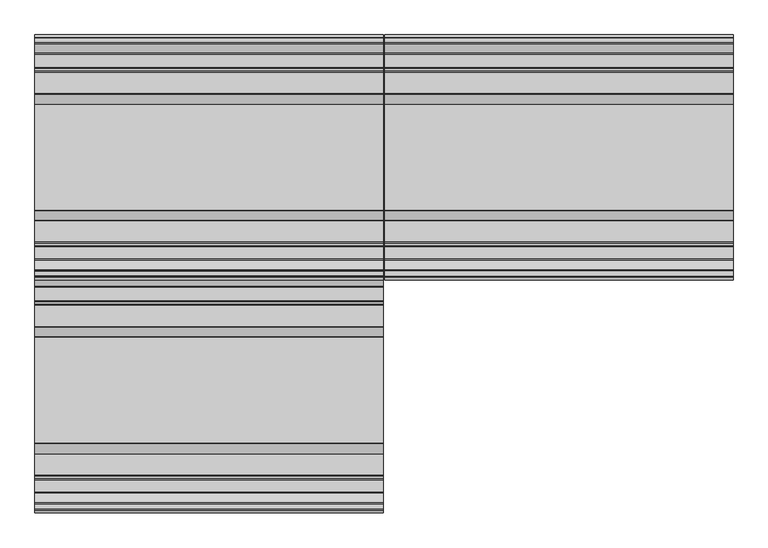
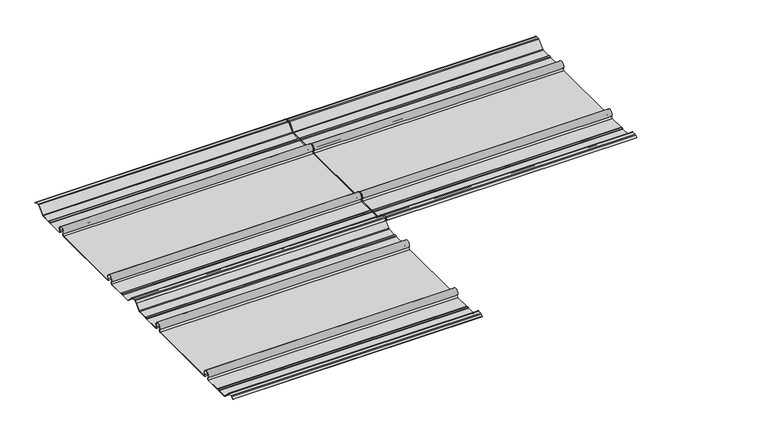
"""IFC4 building model written with IfcOpenShell, lengths in millimetres: proxy geometry, Xlath : Xlath."""

import ifcopenshell
import ifcopenshell.guid

model = None  # the IFC model being written
_history = None  # IfcOwnerHistory: only IFC2X3 demands one
_inside = {}  # id of a spatial element -> (the spatial element, [elements in it])
_under = {}  # id of a project, library or spatial element -> (it, [spatial elements below it])
_declared = {}  # id of a project -> (the project, [libraries it declares])
_typed = {}  # id of a type object -> (the type object, [elements of that type])
_made_of = {}  # id of a material, layer set ... -> (it, [elements and type objects made of it])


def new_model(schema):
    """Start an empty IFC model of exactly this schema.

    Asked for "IFC4X3", IfcOpenShell would pick the latest addendum, in which some entities
    have other attributes; the version numbers below select the first issue.
    IFC2X3 requires an IfcOwnerHistory on every rooted entity: one is made here for all.
    """
    global model, _history
    if schema == "IFC4X3":
        model = ifcopenshell.file(schema_version=(4, 3, 0, 0))
    else:
        model = ifcopenshell.file(schema=schema)
    _inside.clear()
    _under.clear()
    _declared.clear()
    _typed.clear()
    _made_of.clear()
    _history = None
    if model.schema == "IFC2X3":
        org = make("IfcOrganization", Name="unknown")
        user = make(
            "IfcPersonAndOrganization",
            ThePerson=make("IfcPerson", FamilyName="unknown"),
            TheOrganization=org,
        )
        app = make(
            "IfcApplication",
            ApplicationDeveloper=org,
            Version="unknown",
            ApplicationFullName="unknown",
            ApplicationIdentifier="unknown",
        )
        _history = make(
            "IfcOwnerHistory",
            OwningUser=user,
            OwningApplication=app,
            ChangeAction="ADDED",
            CreationDate=0,
        )
    return model


def make(cls, **values):
    """One entity of the class cls with the attributes given. An attribute that is None is left unset."""
    return model.create_entity(
        cls, **{name: value for name, value in values.items() if value is not None}
    )


def rooted(cls, **values):
    """An entity with a GlobalId (a new one), such as an element, a storey or a relation."""
    return make(cls, GlobalId=ifcopenshell.guid.new(), OwnerHistory=_history, **values)


def si_unit(unit_type, name, prefix=None):
    """IfcSIUnit, for example si_unit("LENGTHUNIT", "METRE", prefix="MILLI")."""
    return make("IfcSIUnit", UnitType=unit_type, Prefix=prefix, Name=name)


def assignment(units):
    """IfcUnitAssignment: the units of a project."""
    return None if units is None else make("IfcUnitAssignment", Units=units)


def point(xyz):
    """IfcCartesianPoint."""
    return None if xyz is None else make("IfcCartesianPoint", Coordinates=xyz)


def direction(xyz):
    """IfcDirection."""
    return None if xyz is None else make("IfcDirection", DirectionRatios=xyz)


def frame(location, z_axis=None, x_axis=None):
    """IfcAxis2Placement3D, a coordinate frame: its origin and axes. An axis left out is left unset."""
    return make(
        "IfcAxis2Placement3D",
        Location=point(location),
        Axis=direction(z_axis),
        RefDirection=direction(x_axis),
    )


def frame_2d(location, x_axis=None):
    """IfcAxis2Placement2D, a coordinate frame in the plane: its origin and x axis."""
    return make(
        "IfcAxis2Placement2D", Location=point(location), RefDirection=direction(x_axis)
    )


def origin():
    """The frame at (0, 0, 0) with its axes left unset."""
    return frame((0.0, 0.0, 0.0))


def place(relative_to, where):
    """IfcLocalPlacement: puts the frame where relative to a parent placement (None: the world)."""
    return make(
        "IfcLocalPlacement", PlacementRelTo=relative_to, RelativePlacement=where
    )


def context(
    kind, dimensions, precision=None, world=None, true_north=None, identifier=None
):
    """IfcGeometricRepresentationContext, for example the 3D "Model" context."""
    return make(
        "IfcGeometricRepresentationContext",
        ContextIdentifier=identifier,
        ContextType=kind,
        CoordinateSpaceDimension=dimensions,
        Precision=precision,
        WorldCoordinateSystem=world,
        TrueNorth=true_north,
    )


def project(units=None, contexts=None):
    """IfcProject with its units and contexts."""
    return rooted(
        "IfcProject",
        Name="project",
        RepresentationContexts=contexts,
        UnitsInContext=assignment(units),
    )


def spatial(cls, under=None, at=None, **own):
    """A site, building, storey or space (cls), placed at a placement, below another one or the project."""
    s = rooted(cls, ObjectPlacement=at, **own)
    if under is not None:
        _under.setdefault(under.id(), (under, []))[1].append(s)
    return s


def polyline(points):
    """IfcPolyline through the points."""
    return make("IfcPolyline", Points=[point(p) for p in points])


def circle_curve(where, radius):
    """IfcCircle in the frame where."""
    return make("IfcCircle", Position=where, Radius=radius)


def trimmed(basis, trim1, trim2, sense, master):
    """IfcTrimmedCurve: the piece of a basis curve between two trims."""
    return make(
        "IfcTrimmedCurve",
        BasisCurve=basis,
        Trim1=trim1,
        Trim2=trim2,
        SenseAgreement=sense,
        MasterRepresentation=master,
    )


def segment(curve, same_sense, transition):
    """IfcCompositeCurveSegment."""
    return make(
        "IfcCompositeCurveSegment",
        Transition=transition,
        SameSense=same_sense,
        ParentCurve=curve,
    )


def composite_curve(segments, self_intersect=None):
    """IfcCompositeCurve: segments joined end to end."""
    return make("IfcCompositeCurve", Segments=segments, SelfIntersect=self_intersect)


def outline(outer, holes=None, kind="AREA"):
    """IfcArbitraryClosedProfileDef: a profile drawn as a closed curve; with holes, ...WithVoids."""
    if holes is None:
        return make("IfcArbitraryClosedProfileDef", ProfileType=kind, OuterCurve=outer)
    return make(
        "IfcArbitraryProfileDefWithVoids",
        ProfileType=kind,
        OuterCurve=outer,
        InnerCurves=holes,
    )


def extrude(swept, where, along, depth):
    """IfcExtrudedAreaSolid: the profile swept, set in the frame where, extruded along a direction by depth."""
    return make(
        "IfcExtrudedAreaSolid",
        SweptArea=swept,
        Position=where,
        ExtrudedDirection=direction(along),
        Depth=depth,
    )


def shape(context_of_items, identifier, shape_type, items):
    """IfcShapeRepresentation: the items that make up one representation, for example the "Body"."""
    return make(
        "IfcShapeRepresentation",
        ContextOfItems=context_of_items,
        RepresentationIdentifier=identifier,
        RepresentationType=shape_type,
        Items=items,
    )


def source(mapping_origin, context_of_items, identifier, shape_type, items):
    """IfcRepresentationMap: a shape defined once, which mapped items show again and again."""
    return make(
        "IfcRepresentationMap",
        MappingOrigin=mapping_origin,
        MappedRepresentation=shape(context_of_items, identifier, shape_type, items),
    )


def transform(
    local_origin,
    x_axis=None,
    y_axis=None,
    z_axis=None,
    scale=None,
    scale2=None,
    scale3=None,
    uniform=True,
):
    """IfcCartesianTransformationOperator3D, or its non-uniform kind. x_axis, y_axis, z_axis: its Axis1, 2, 3."""
    if uniform:
        return make(
            "IfcCartesianTransformationOperator3D",
            Axis1=direction(x_axis),
            Axis2=direction(y_axis),
            LocalOrigin=point(local_origin),
            Scale=scale,
            Axis3=direction(z_axis),
        )
    return make(
        "IfcCartesianTransformationOperator3DnonUniform",
        Axis1=direction(x_axis),
        Axis2=direction(y_axis),
        LocalOrigin=point(local_origin),
        Scale=scale,
        Axis3=direction(z_axis),
        Scale2=scale2,
        Scale3=scale3,
    )


def mapped(mapping_source, mapping_target):
    """IfcMappedItem: shows the shape of a source again, moved by a transform."""
    return make(
        "IfcMappedItem", MappingSource=mapping_source, MappingTarget=mapping_target
    )


def made_of(thing, what):
    """Note that an element or type object is made of a material, layer set ...; save() writes the relation."""
    if what is not None:
        _made_of.setdefault(what.id(), (what, []))[1].append(thing)
    return thing


def element(
    cls,
    number,
    at=None,
    inside=None,
    cuts=None,
    type_object=None,
    material=None,
    context=None,
    identifier="Body",
    shape_type=None,
    held_by="IfcProductDefinitionShape",
    body=None,
    shapes=None,
    **own,
):
    """One element of the class cls, such as IfcWall. Its Tag is "e" and its number.

    at: its placement. inside: the storey or other place that contains it. cuts: it is an
    opening in that element (IfcRelVoidsElement). A single representation is given by context,
    identifier, shape_type and body (its items); several are given by shapes. held_by: the class
    of the entity that holds the representations. save() writes the other relations.
    """
    e = rooted(cls, Tag="e%d" % number, ObjectPlacement=at, **own)
    if body is not None:
        shapes = [shape(context, identifier, shape_type, body)]
    if shapes is not None:
        e.Representation = make(held_by, Representations=shapes)
    if inside is not None:
        _inside.setdefault(inside.id(), (inside, []))[1].append(e)
    if cuts is not None:
        rooted(
            "IfcRelVoidsElement", RelatingBuildingElement=cuts, RelatedOpeningElement=e
        )
    if type_object is not None:
        _typed.setdefault(type_object.id(), (type_object, []))[1].append(e)
    return made_of(e, material)


def aggregate(whole, parts):
    """IfcRelAggregates: a whole, such as a stair, and the parts it consists of."""
    return rooted("IfcRelAggregates", RelatingObject=whole, RelatedObjects=parts)


def save(model, path):
    """Write the relations noted so far, then the file.

    IfcRelAggregates (storeys below a building ...), IfcRelContainedInSpatialStructure (elements
    in a storey), IfcRelDefinesByType, IfcRelAssociatesMaterial and IfcRelDeclares: one each for
    every whole, place, type object, material and project.
    """
    for whole, parts in _under.values():
        aggregate(whole, parts)
    for where, things in _inside.values():
        rooted(
            "IfcRelContainedInSpatialStructure",
            RelatedElements=things,
            RelatingStructure=where,
        )
    for kind, things in _typed.values():
        rooted("IfcRelDefinesByType", RelatedObjects=things, RelatingType=kind)
    for what, things in _made_of.values():
        rooted("IfcRelAssociatesMaterial", RelatedObjects=things, RelatingMaterial=what)
    for by, libraries in _declared.values():
        rooted("IfcRelDeclares", RelatingContext=by, RelatedDefinitions=libraries)
    model.write(path)


def generic_models_2addc40d(model_context):
    return source(origin(), model_context, "Body", "SweptSolid", [
        extrude(outline(composite_curve([segment(polyline([(-410.421536, 17.692427), (-406.4, 13.8209287), (-406.9628134, 13.2581153), (-411.2173305, 17.3539026)]), True, "CONTINUOUS"), segment(trimmed(circle_curve(frame_2d((-413.0934261, 15.4051)), 2.7051), [point((-411.2173305, 17.3539026))], [point((-413.0934261, 18.1102))], True, "CARTESIAN"), True, "CONTINUOUS"), segment(polyline([(-413.0934261, 18.1102), (-420.2817457, 18.1102)]), True, "CONTINUOUS"), segment(trimmed(circle_curve(frame_2d((-420.2817457, 15.4051)), 2.7051), [point((-420.2817457, 18.1102))], [point((-422.2059623, 17.3064039))], True, "CARTESIAN"), True, "CONTINUOUS"), segment(polyline([(-422.2059623, 17.3064039), (-438.3741011, 0.9434226)]), True, "CONTINUOUS"), segment(trimmed(circle_curve(frame_2d((-440.6325712, 3.175)), 3.175), [point((-438.3741011, 0.9434226))], [point((-440.6325712, 0.0))], False, "CARTESIAN"), True, "CONTINUOUS"), segment(polyline([(-440.6325712, 0.0), (-463.7486405, 0.0)]), True, "CONTINUOUS"), segment(trimmed(circle_curve(frame_2d((-463.7486405, 3.175)), 3.175), [point((-463.7486405, 0.0))], [point((-465.7419174, 0.70367))], False, "CARTESIAN"), True, "CONTINUOUS"), segment(trimmed(circle_curve(frame_2d((-467.7351943, -1.7676601)), 3.175), [point((-465.7419174, 0.70367))], [point((-469.7284712, 0.70367))], True, "CARTESIAN"), True, "CONTINUOUS"), segment(trimmed(circle_curve(frame_2d((-471.7217481, 3.175)), 3.175), [point((-469.7284712, 0.70367))], [point((-471.7217481, 0.0))], False, "CARTESIAN"), True, "CONTINUOUS"), segment(polyline([(-471.7217481, 0.0), (-508.99972, 0.0)]), True, "CONTINUOUS"), segment(trimmed(circle_curve(frame_2d((-508.99972, 3.3362305)), 3.3362305), [point((-508.99972, 0.0))], [point((-511.6911698, 5.3076593))], False, "CARTESIAN"), True, "CONTINUOUS"), segment(trimmed(circle_curve(frame_2d((-518.2031627, 10.0775533)), 8.0720469), [point((-511.6911698, 5.3076593))], [point((-524.7151555, 5.3076593))], True, "CARTESIAN"), True, "CONTINUOUS"), segment(trimmed(circle_curve(frame_2d((-527.4066054, 3.3362305)), 3.3362305), [point((-524.7151555, 5.3076593))], [point((-527.4066054, 0.0))], False, "CARTESIAN"), True, "CONTINUOUS"), segment(polyline([(-527.4066054, 0.0), (-712.4308946, 0.0)]), True, "CONTINUOUS"), segment(trimmed(circle_curve(frame_2d((-712.4308946, 3.3362305)), 3.3362305), [point((-712.4308946, 0.0))], [point((-715.1223445, 5.3076593))], False, "CARTESIAN"), True, "CONTINUOUS"), segment(trimmed(circle_curve(frame_2d((-721.6343373, 10.0775533)), 8.0720469), [point((-715.1223445, 5.3076593))], [point((-728.1463302, 5.3076593))], True, "CARTESIAN"), True, "CONTINUOUS"), segment(trimmed(circle_curve(frame_2d((-730.83778, 3.3362305)), 3.3362305), [point((-728.1463302, 5.3076593))], [point((-730.83778, 0.0))], False, "CARTESIAN"), True, "CONTINUOUS"), segment(polyline([(-730.83778, 0.0), (-768.1157519, 0.0)]), True, "CONTINUOUS"), segment(trimmed(circle_curve(frame_2d((-768.1157519, 3.175)), 3.175), [point((-768.1157519, 0.0))], [point((-770.1090288, 0.70367))], False, "CARTESIAN"), True, "CONTINUOUS"), segment(trimmed(circle_curve(frame_2d((-772.1023057, -1.7676601)), 3.175), [point((-770.1090288, 0.70367))], [point((-774.0955826, 0.70367))], True, "CARTESIAN"), True, "CONTINUOUS"), segment(trimmed(circle_curve(frame_2d((-776.0888595, 3.175)), 3.175), [point((-774.0955826, 0.70367))], [point((-776.0888595, 0.0))], False, "CARTESIAN"), True, "CONTINUOUS"), segment(polyline([(-776.0888595, 0.0), (-797.4183557, 0.0)]), True, "CONTINUOUS"), segment(trimmed(circle_curve(frame_2d((-797.4183557, 3.175)), 3.175), [point((-797.4183557, 0.0))], [point((-799.6768259, 0.9434226))], False, "CARTESIAN"), True, "CONTINUOUS"), segment(polyline([(-799.6768259, 0.9434226), (-816.3092693, 17.7763039)]), True, "CONTINUOUS"), segment(trimmed(circle_curve(frame_2d((-818.2334859, 15.875)), 2.7051), [point((-816.3092693, 17.7763039))], [point((-818.2334859, 18.5801))], True, "CARTESIAN"), True, "CONTINUOUS"), segment(polyline([(-818.2334859, 18.5801), (-826.7440739, 18.5801)]), True, "CONTINUOUS"), segment(trimmed(circle_curve(frame_2d((-826.7440739, 15.875)), 2.7051), [point((-826.7440739, 18.5801))], [point((-828.6201695, 17.8238026))], True, "CARTESIAN"), True, "CONTINUOUS"), segment(polyline([(-828.6201695, 17.8238026), (-832.8855845, 13.717524), (-833.4483979, 14.2803374), (-829.415964, 18.162327)]), True, "CONTINUOUS"), segment(trimmed(circle_curve(frame_2d((-827.2139739, 15.875)), 3.175), [point((-829.415964, 18.162327))], [point((-827.2139739, 19.05))], False, "CARTESIAN"), True, "CONTINUOUS"), segment(polyline([(-827.2139739, 19.05), (-818.2334859, 19.05)]), True, "CONTINUOUS"), segment(trimmed(circle_curve(frame_2d((-818.2334859, 15.875)), 3.175), [point((-818.2334859, 19.05))], [point((-815.9750157, 18.1065774))], False, "CARTESIAN"), True, "CONTINUOUS"), segment(polyline([(-815.9750157, 18.1065774), (-799.3425723, 1.2736961)]), True, "CONTINUOUS"), segment(trimmed(circle_curve(frame_2d((-797.4183557, 3.175)), 2.7051), [point((-799.3425723, 1.2736961))], [point((-797.4183557, 0.4699))], True, "CARTESIAN"), True, "CONTINUOUS"), segment(polyline([(-797.4183557, 0.4699), (-776.2514296, 0.4699)]), True, "CONTINUOUS"), segment(trimmed(circle_curve(frame_2d((-776.2514296, 3.6449)), 3.175), [point((-776.2514296, 0.4699))], [point((-774.3198077, 1.1250862))], True, "CARTESIAN"), True, "CONTINUOUS"), segment(trimmed(circle_curve(frame_2d((-772.1023057, -1.7676601)), 3.6449), [point((-774.3198077, 1.1250862))], [point((-769.8848037, 1.1250862))], False, "CARTESIAN"), True, "CONTINUOUS"), segment(trimmed(circle_curve(frame_2d((-767.9531818, 3.6449)), 3.175), [point((-769.8848037, 1.1250862))], [point((-767.9531818, 0.4699))], True, "CARTESIAN"), True, "CONTINUOUS"), segment(polyline([(-767.9531818, 0.4699), (-730.83778, 0.4699)]), True, "CONTINUOUS"), segment(trimmed(circle_curve(frame_2d((-730.83778, 3.3362305)), 2.8663305), [point((-730.83778, 0.4699))], [point((-728.5254144, 5.0299883))], True, "CARTESIAN"), True, "CONTINUOUS"), segment(trimmed(circle_curve(frame_2d((-721.6343373, 10.0775533)), 8.5419469), [point((-728.5254144, 5.0299883))], [point((-714.7432603, 5.0299883))], False, "CARTESIAN"), True, "CONTINUOUS"), segment(trimmed(circle_curve(frame_2d((-712.4308946, 3.3362305)), 2.8663305), [point((-714.7432603, 5.0299883))], [point((-712.4308946, 0.4699))], True, "CARTESIAN"), True, "CONTINUOUS"), segment(polyline([(-712.4308946, 0.4699), (-527.4066054, 0.4699)]), True, "CONTINUOUS"), segment(trimmed(circle_curve(frame_2d((-527.4066054, 3.3362305)), 2.8663305), [point((-527.4066054, 0.4699))], [point((-525.0942397, 5.0299883))], True, "CARTESIAN"), True, "CONTINUOUS"), segment(trimmed(circle_curve(frame_2d((-518.2031627, 10.0775533)), 8.5419469), [point((-525.0942397, 5.0299883))], [point((-511.3120856, 5.0299883))], False, "CARTESIAN"), True, "CONTINUOUS"), segment(trimmed(circle_curve(frame_2d((-508.99972, 3.3362305)), 2.8663305), [point((-511.3120856, 5.0299883))], [point((-508.99972, 0.4699))], True, "CARTESIAN"), True, "CONTINUOUS"), segment(polyline([(-508.99972, 0.4699), (-471.8843182, 0.4699)]), True, "CONTINUOUS"), segment(trimmed(circle_curve(frame_2d((-471.8843182, 3.6449)), 3.175), [point((-471.8843182, 0.4699))], [point((-469.9526963, 1.1250862))], True, "CARTESIAN"), True, "CONTINUOUS"), segment(trimmed(circle_curve(frame_2d((-467.7351943, -1.7676601)), 3.6449), [point((-469.9526963, 1.1250862))], [point((-465.5176923, 1.1250862))], False, "CARTESIAN"), True, "CONTINUOUS"), segment(trimmed(circle_curve(frame_2d((-463.5860704, 3.6449)), 3.175), [point((-465.5176923, 1.1250862))], [point((-463.5860704, 0.4699))], True, "CARTESIAN"), True, "CONTINUOUS"), segment(polyline([(-463.5860704, 0.4699), (-440.6325712, 0.4699)]), True, "CONTINUOUS"), segment(trimmed(circle_curve(frame_2d((-440.6325712, 3.175)), 2.7051), [point((-440.6325712, 0.4699))], [point((-438.7083547, 1.2736961))], True, "CARTESIAN"), True, "CONTINUOUS"), segment(polyline([(-438.7083547, 1.2736961), (-422.5402159, 17.6366774)]), True, "CONTINUOUS"), segment(trimmed(circle_curve(frame_2d((-420.2817457, 15.4051)), 3.175), [point((-422.5402159, 17.6366774))], [point((-420.2817457, 18.5801))], False, "CARTESIAN"), True, "CONTINUOUS"), segment(polyline([(-420.2817457, 18.5801), (-412.6235261, 18.5801)]), True, "CONTINUOUS"), segment(trimmed(circle_curve(frame_2d((-412.6235261, 15.4051)), 3.175), [point((-412.6235261, 18.5801))], [point((-410.421536, 17.692427))], False, "CARTESIAN"), True, "CONTINUOUS")], self_intersect=False)), frame((0.0, 0.0, 0.0), z_axis=(1.0, 0.0, 0.0), x_axis=(0.0, 1.0, 0.0)), (0.0, 0.0, 1.0), 606.425),
        extrude(outline(composite_curve([segment(polyline([(-4.021536, 17.692427), (0.0, 13.8209287), (-0.5628134, 13.2581153), (-4.8173305, 17.3539026)]), True, "CONTINUOUS"), segment(trimmed(circle_curve(frame_2d((-6.6934261, 15.4051)), 2.7051), [point((-4.8173305, 17.3539026))], [point((-6.6934261, 18.1102))], True, "CARTESIAN"), True, "CONTINUOUS"), segment(polyline([(-6.6934261, 18.1102), (-13.8817457, 18.1102)]), True, "CONTINUOUS"), segment(trimmed(circle_curve(frame_2d((-13.8817457, 15.4051)), 2.7051), [point((-13.8817457, 18.1102))], [point((-15.8059623, 17.3064039))], True, "CARTESIAN"), True, "CONTINUOUS"), segment(polyline([(-15.8059623, 17.3064039), (-31.9741011, 0.9434226)]), True, "CONTINUOUS"), segment(trimmed(circle_curve(frame_2d((-34.2325712, 3.175)), 3.175), [point((-31.9741011, 0.9434226))], [point((-34.2325712, 0.0))], False, "CARTESIAN"), True, "CONTINUOUS"), segment(polyline([(-34.2325712, 0.0), (-57.3486405, 0.0)]), True, "CONTINUOUS"), segment(trimmed(circle_curve(frame_2d((-57.3486405, 3.175)), 3.175), [point((-57.3486405, 0.0))], [point((-59.3419174, 0.70367))], False, "CARTESIAN"), True, "CONTINUOUS"), segment(trimmed(circle_curve(frame_2d((-61.3351943, -1.7676601)), 3.175), [point((-59.3419174, 0.70367))], [point((-63.3284712, 0.70367))], True, "CARTESIAN"), True, "CONTINUOUS"), segment(trimmed(circle_curve(frame_2d((-65.3217481, 3.175)), 3.175), [point((-63.3284712, 0.70367))], [point((-65.3217481, 0.0))], False, "CARTESIAN"), True, "CONTINUOUS"), segment(polyline([(-65.3217481, 0.0), (-102.59972, 0.0)]), True, "CONTINUOUS"), segment(trimmed(circle_curve(frame_2d((-102.59972, 3.3362305)), 3.3362305), [point((-102.59972, 0.0))], [point((-105.2911698, 5.3076593))], False, "CARTESIAN"), True, "CONTINUOUS"), segment(trimmed(circle_curve(frame_2d((-111.8031627, 10.0775533)), 8.0720469), [point((-105.2911698, 5.3076593))], [point((-118.3151555, 5.3076593))], True, "CARTESIAN"), True, "CONTINUOUS"), segment(trimmed(circle_curve(frame_2d((-121.0066054, 3.3362305)), 3.3362305), [point((-118.3151555, 5.3076593))], [point((-121.0066054, 0.0))], False, "CARTESIAN"), True, "CONTINUOUS"), segment(polyline([(-121.0066054, 0.0), (-306.0308946, 0.0)]), True, "CONTINUOUS"), segment(trimmed(circle_curve(frame_2d((-306.0308946, 3.3362305)), 3.3362305), [point((-306.0308946, 0.0))], [point((-308.7223445, 5.3076593))], False, "CARTESIAN"), True, "CONTINUOUS"), segment(trimmed(circle_curve(frame_2d((-315.2343373, 10.0775533)), 8.0720469), [point((-308.7223445, 5.3076593))], [point((-321.7463302, 5.3076593))], True, "CARTESIAN"), True, "CONTINUOUS"), segment(trimmed(circle_curve(frame_2d((-324.43778, 3.3362305)), 3.3362305), [point((-321.7463302, 5.3076593))], [point((-324.43778, 0.0))], False, "CARTESIAN"), True, "CONTINUOUS"), segment(polyline([(-324.43778, 0.0), (-361.7157519, 0.0)]), True, "CONTINUOUS"), segment(trimmed(circle_curve(frame_2d((-361.7157519, 3.175)), 3.175), [point((-361.7157519, 0.0))], [point((-363.7090288, 0.70367))], False, "CARTESIAN"), True, "CONTINUOUS"), segment(trimmed(circle_curve(frame_2d((-365.7023057, -1.7676601)), 3.175), [point((-363.7090288, 0.70367))], [point((-367.6955826, 0.70367))], True, "CARTESIAN"), True, "CONTINUOUS"), segment(trimmed(circle_curve(frame_2d((-369.6888595, 3.175)), 3.175), [point((-367.6955826, 0.70367))], [point((-369.6888595, 0.0))], False, "CARTESIAN"), True, "CONTINUOUS"), segment(polyline([(-369.6888595, 0.0), (-391.0183557, 0.0)]), True, "CONTINUOUS"), segment(trimmed(circle_curve(frame_2d((-391.0183557, 3.175)), 3.175), [point((-391.0183557, 0.0))], [point((-393.2768259, 0.9434226))], False, "CARTESIAN"), True, "CONTINUOUS"), segment(polyline([(-393.2768259, 0.9434226), (-409.9092693, 17.7763039)]), True, "CONTINUOUS"), segment(trimmed(circle_curve(frame_2d((-411.8334859, 15.875)), 2.7051), [point((-409.9092693, 17.7763039))], [point((-411.8334859, 18.5801))], True, "CARTESIAN"), True, "CONTINUOUS"), segment(polyline([(-411.8334859, 18.5801), (-420.3440739, 18.5801)]), True, "CONTINUOUS"), segment(trimmed(circle_curve(frame_2d((-420.3440739, 15.875)), 2.7051), [point((-420.3440739, 18.5801))], [point((-422.2201695, 17.8238026))], True, "CARTESIAN"), True, "CONTINUOUS"), segment(polyline([(-422.2201695, 17.8238026), (-426.4855845, 13.717524), (-427.0483979, 14.2803374), (-423.015964, 18.162327)]), True, "CONTINUOUS"), segment(trimmed(circle_curve(frame_2d((-420.8139739, 15.875)), 3.175), [point((-423.015964, 18.162327))], [point((-420.8139739, 19.05))], False, "CARTESIAN"), True, "CONTINUOUS"), segment(polyline([(-420.8139739, 19.05), (-411.8334859, 19.05)]), True, "CONTINUOUS"), segment(trimmed(circle_curve(frame_2d((-411.8334859, 15.875)), 3.175), [point((-411.8334859, 19.05))], [point((-409.5750157, 18.1065774))], False, "CARTESIAN"), True, "CONTINUOUS"), segment(polyline([(-409.5750157, 18.1065774), (-392.9425723, 1.2736961)]), True, "CONTINUOUS"), segment(trimmed(circle_curve(frame_2d((-391.0183557, 3.175)), 2.7051), [point((-392.9425723, 1.2736961))], [point((-391.0183557, 0.4699))], True, "CARTESIAN"), True, "CONTINUOUS"), segment(polyline([(-391.0183557, 0.4699), (-369.8514296, 0.4699)]), True, "CONTINUOUS"), segment(trimmed(circle_curve(frame_2d((-369.8514296, 3.6449)), 3.175), [point((-369.8514296, 0.4699))], [point((-367.9198077, 1.1250862))], True, "CARTESIAN"), True, "CONTINUOUS"), segment(trimmed(circle_curve(frame_2d((-365.7023057, -1.7676601)), 3.6449), [point((-367.9198077, 1.1250862))], [point((-363.4848037, 1.1250862))], False, "CARTESIAN"), True, "CONTINUOUS"), segment(trimmed(circle_curve(frame_2d((-361.5531818, 3.6449)), 3.175), [point((-363.4848037, 1.1250862))], [point((-361.5531818, 0.4699))], True, "CARTESIAN"), True, "CONTINUOUS"), segment(polyline([(-361.5531818, 0.4699), (-324.43778, 0.4699)]), True, "CONTINUOUS"), segment(trimmed(circle_curve(frame_2d((-324.43778, 3.3362305)), 2.8663305), [point((-324.43778, 0.4699))], [point((-322.1254144, 5.0299883))], True, "CARTESIAN"), True, "CONTINUOUS"), segment(trimmed(circle_curve(frame_2d((-315.2343373, 10.0775533)), 8.5419469), [point((-322.1254144, 5.0299883))], [point((-308.3432603, 5.0299883))], False, "CARTESIAN"), True, "CONTINUOUS"), segment(trimmed(circle_curve(frame_2d((-306.0308946, 3.3362305)), 2.8663305), [point((-308.3432603, 5.0299883))], [point((-306.0308946, 0.4699))], True, "CARTESIAN"), True, "CONTINUOUS"), segment(polyline([(-306.0308946, 0.4699), (-121.0066054, 0.4699)]), True, "CONTINUOUS"), segment(trimmed(circle_curve(frame_2d((-121.0066054, 3.3362305)), 2.8663305), [point((-121.0066054, 0.4699))], [point((-118.6942397, 5.0299883))], True, "CARTESIAN"), True, "CONTINUOUS"), segment(trimmed(circle_curve(frame_2d((-111.8031627, 10.0775533)), 8.5419469), [point((-118.6942397, 5.0299883))], [point((-104.9120856, 5.0299883))], False, "CARTESIAN"), True, "CONTINUOUS"), segment(trimmed(circle_curve(frame_2d((-102.59972, 3.3362305)), 2.8663305), [point((-104.9120856, 5.0299883))], [point((-102.59972, 0.4699))], True, "CARTESIAN"), True, "CONTINUOUS"), segment(polyline([(-102.59972, 0.4699), (-65.4843182, 0.4699)]), True, "CONTINUOUS"), segment(trimmed(circle_curve(frame_2d((-65.4843182, 3.6449)), 3.175), [point((-65.4843182, 0.4699))], [point((-63.5526963, 1.1250862))], True, "CARTESIAN"), True, "CONTINUOUS"), segment(trimmed(circle_curve(frame_2d((-61.3351943, -1.7676601)), 3.6449), [point((-63.5526963, 1.1250862))], [point((-59.1176923, 1.1250862))], False, "CARTESIAN"), True, "CONTINUOUS"), segment(trimmed(circle_curve(frame_2d((-57.1860704, 3.6449)), 3.175), [point((-59.1176923, 1.1250862))], [point((-57.1860704, 0.4699))], True, "CARTESIAN"), True, "CONTINUOUS"), segment(polyline([(-57.1860704, 0.4699), (-34.2325712, 0.4699)]), True, "CONTINUOUS"), segment(trimmed(circle_curve(frame_2d((-34.2325712, 3.175)), 2.7051), [point((-34.2325712, 0.4699))], [point((-32.3083547, 1.2736961))], True, "CARTESIAN"), True, "CONTINUOUS"), segment(polyline([(-32.3083547, 1.2736961), (-16.1402159, 17.6366774)]), True, "CONTINUOUS"), segment(trimmed(circle_curve(frame_2d((-13.8817457, 15.4051)), 3.175), [point((-16.1402159, 17.6366774))], [point((-13.8817457, 18.5801))], False, "CARTESIAN"), True, "CONTINUOUS"), segment(polyline([(-13.8817457, 18.5801), (-6.2235261, 18.5801)]), True, "CONTINUOUS"), segment(trimmed(circle_curve(frame_2d((-6.2235261, 15.4051)), 3.175), [point((-6.2235261, 18.5801))], [point((-4.021536, 17.692427))], False, "CARTESIAN"), True, "CONTINUOUS")], self_intersect=False)), frame((609.6, 0.0, 0.0), z_axis=(1.0, 0.0, 0.0), x_axis=(0.0, 1.0, 0.0)), (0.0, 0.0, 1.0), 606.425),
        extrude(outline(composite_curve([segment(polyline([(-4.021536, 17.692427), (0.0, 13.8209287), (-0.5628134, 13.2581153), (-4.8173305, 17.3539026)]), True, "CONTINUOUS"), segment(trimmed(circle_curve(frame_2d((-6.6934261, 15.4051)), 2.7051), [point((-4.8173305, 17.3539026))], [point((-6.6934261, 18.1102))], True, "CARTESIAN"), True, "CONTINUOUS"), segment(polyline([(-6.6934261, 18.1102), (-13.8817457, 18.1102)]), True, "CONTINUOUS"), segment(trimmed(circle_curve(frame_2d((-13.8817457, 15.4051)), 2.7051), [point((-13.8817457, 18.1102))], [point((-15.8059623, 17.3064039))], True, "CARTESIAN"), True, "CONTINUOUS"), segment(polyline([(-15.8059623, 17.3064039), (-31.9741011, 0.9434226)]), True, "CONTINUOUS"), segment(trimmed(circle_curve(frame_2d((-34.2325712, 3.175)), 3.175), [point((-31.9741011, 0.9434226))], [point((-34.2325712, 0.0))], False, "CARTESIAN"), True, "CONTINUOUS"), segment(polyline([(-34.2325712, 0.0), (-57.3486405, 0.0)]), True, "CONTINUOUS"), segment(trimmed(circle_curve(frame_2d((-57.3486405, 3.175)), 3.175), [point((-57.3486405, 0.0))], [point((-59.3419174, 0.70367))], False, "CARTESIAN"), True, "CONTINUOUS"), segment(trimmed(circle_curve(frame_2d((-61.3351943, -1.7676601)), 3.175), [point((-59.3419174, 0.70367))], [point((-63.3284712, 0.70367))], True, "CARTESIAN"), True, "CONTINUOUS"), segment(trimmed(circle_curve(frame_2d((-65.3217481, 3.175)), 3.175), [point((-63.3284712, 0.70367))], [point((-65.3217481, 0.0))], False, "CARTESIAN"), True, "CONTINUOUS"), segment(polyline([(-65.3217481, 0.0), (-102.59972, 0.0)]), True, "CONTINUOUS"), segment(trimmed(circle_curve(frame_2d((-102.59972, 3.3362305)), 3.3362305), [point((-102.59972, 0.0))], [point((-105.2911698, 5.3076593))], False, "CARTESIAN"), True, "CONTINUOUS"), segment(trimmed(circle_curve(frame_2d((-111.8031627, 10.0775533)), 8.0720469), [point((-105.2911698, 5.3076593))], [point((-118.3151555, 5.3076593))], True, "CARTESIAN"), True, "CONTINUOUS"), segment(trimmed(circle_curve(frame_2d((-121.0066054, 3.3362305)), 3.3362305), [point((-118.3151555, 5.3076593))], [point((-121.0066054, 0.0))], False, "CARTESIAN"), True, "CONTINUOUS"), segment(polyline([(-121.0066054, 0.0), (-306.0308946, 0.0)]), True, "CONTINUOUS"), segment(trimmed(circle_curve(frame_2d((-306.0308946, 3.3362305)), 3.3362305), [point((-306.0308946, 0.0))], [point((-308.7223445, 5.3076593))], False, "CARTESIAN"), True, "CONTINUOUS"), segment(trimmed(circle_curve(frame_2d((-315.2343373, 10.0775533)), 8.0720469), [point((-308.7223445, 5.3076593))], [point((-321.7463302, 5.3076593))], True, "CARTESIAN"), True, "CONTINUOUS"), segment(trimmed(circle_curve(frame_2d((-324.43778, 3.3362305)), 3.3362305), [point((-321.7463302, 5.3076593))], [point((-324.43778, 0.0))], False, "CARTESIAN"), True, "CONTINUOUS"), segment(polyline([(-324.43778, 0.0), (-361.7157519, 0.0)]), True, "CONTINUOUS"), segment(trimmed(circle_curve(frame_2d((-361.7157519, 3.175)), 3.175), [point((-361.7157519, 0.0))], [point((-363.7090288, 0.70367))], False, "CARTESIAN"), True, "CONTINUOUS"), segment(trimmed(circle_curve(frame_2d((-365.7023057, -1.7676601)), 3.175), [point((-363.7090288, 0.70367))], [point((-367.6955826, 0.70367))], True, "CARTESIAN"), True, "CONTINUOUS"), segment(trimmed(circle_curve(frame_2d((-369.6888595, 3.175)), 3.175), [point((-367.6955826, 0.70367))], [point((-369.6888595, 0.0))], False, "CARTESIAN"), True, "CONTINUOUS"), segment(polyline([(-369.6888595, 0.0), (-391.0183557, 0.0)]), True, "CONTINUOUS"), segment(trimmed(circle_curve(frame_2d((-391.0183557, 3.175)), 3.175), [point((-391.0183557, 0.0))], [point((-393.2768259, 0.9434226))], False, "CARTESIAN"), True, "CONTINUOUS"), segment(polyline([(-393.2768259, 0.9434226), (-409.9092693, 17.7763039)]), True, "CONTINUOUS"), segment(trimmed(circle_curve(frame_2d((-411.8334859, 15.875)), 2.7051), [point((-409.9092693, 17.7763039))], [point((-411.8334859, 18.5801))], True, "CARTESIAN"), True, "CONTINUOUS"), segment(polyline([(-411.8334859, 18.5801), (-420.3440739, 18.5801)]), True, "CONTINUOUS"), segment(trimmed(circle_curve(frame_2d((-420.3440739, 15.875)), 2.7051), [point((-420.3440739, 18.5801))], [point((-422.2201695, 17.8238026))], True, "CARTESIAN"), True, "CONTINUOUS"), segment(polyline([(-422.2201695, 17.8238026), (-426.4855845, 13.717524), (-427.0483979, 14.2803374), (-423.015964, 18.162327)]), True, "CONTINUOUS"), segment(trimmed(circle_curve(frame_2d((-420.8139739, 15.875)), 3.175), [point((-423.015964, 18.162327))], [point((-420.8139739, 19.05))], False, "CARTESIAN"), True, "CONTINUOUS"), segment(polyline([(-420.8139739, 19.05), (-411.8334859, 19.05)]), True, "CONTINUOUS"), segment(trimmed(circle_curve(frame_2d((-411.8334859, 15.875)), 3.175), [point((-411.8334859, 19.05))], [point((-409.5750157, 18.1065774))], False, "CARTESIAN"), True, "CONTINUOUS"), segment(polyline([(-409.5750157, 18.1065774), (-392.9425723, 1.2736961)]), True, "CONTINUOUS"), segment(trimmed(circle_curve(frame_2d((-391.0183557, 3.175)), 2.7051), [point((-392.9425723, 1.2736961))], [point((-391.0183557, 0.4699))], True, "CARTESIAN"), True, "CONTINUOUS"), segment(polyline([(-391.0183557, 0.4699), (-369.8514296, 0.4699)]), True, "CONTINUOUS"), segment(trimmed(circle_curve(frame_2d((-369.8514296, 3.6449)), 3.175), [point((-369.8514296, 0.4699))], [point((-367.9198077, 1.1250862))], True, "CARTESIAN"), True, "CONTINUOUS"), segment(trimmed(circle_curve(frame_2d((-365.7023057, -1.7676601)), 3.6449), [point((-367.9198077, 1.1250862))], [point((-363.4848037, 1.1250862))], False, "CARTESIAN"), True, "CONTINUOUS"), segment(trimmed(circle_curve(frame_2d((-361.5531818, 3.6449)), 3.175), [point((-363.4848037, 1.1250862))], [point((-361.5531818, 0.4699))], True, "CARTESIAN"), True, "CONTINUOUS"), segment(polyline([(-361.5531818, 0.4699), (-324.43778, 0.4699)]), True, "CONTINUOUS"), segment(trimmed(circle_curve(frame_2d((-324.43778, 3.3362305)), 2.8663305), [point((-324.43778, 0.4699))], [point((-322.1254144, 5.0299883))], True, "CARTESIAN"), True, "CONTINUOUS"), segment(trimmed(circle_curve(frame_2d((-315.2343373, 10.0775533)), 8.5419469), [point((-322.1254144, 5.0299883))], [point((-308.3432603, 5.0299883))], False, "CARTESIAN"), True, "CONTINUOUS"), segment(trimmed(circle_curve(frame_2d((-306.0308946, 3.3362305)), 2.8663305), [point((-308.3432603, 5.0299883))], [point((-306.0308946, 0.4699))], True, "CARTESIAN"), True, "CONTINUOUS"), segment(polyline([(-306.0308946, 0.4699), (-121.0066054, 0.4699)]), True, "CONTINUOUS"), segment(trimmed(circle_curve(frame_2d((-121.0066054, 3.3362305)), 2.8663305), [point((-121.0066054, 0.4699))], [point((-118.6942397, 5.0299883))], True, "CARTESIAN"), True, "CONTINUOUS"), segment(trimmed(circle_curve(frame_2d((-111.8031627, 10.0775533)), 8.5419469), [point((-118.6942397, 5.0299883))], [point((-104.9120856, 5.0299883))], False, "CARTESIAN"), True, "CONTINUOUS"), segment(trimmed(circle_curve(frame_2d((-102.59972, 3.3362305)), 2.8663305), [point((-104.9120856, 5.0299883))], [point((-102.59972, 0.4699))], True, "CARTESIAN"), True, "CONTINUOUS"), segment(polyline([(-102.59972, 0.4699), (-65.4843182, 0.4699)]), True, "CONTINUOUS"), segment(trimmed(circle_curve(frame_2d((-65.4843182, 3.6449)), 3.175), [point((-65.4843182, 0.4699))], [point((-63.5526963, 1.1250862))], True, "CARTESIAN"), True, "CONTINUOUS"), segment(trimmed(circle_curve(frame_2d((-61.3351943, -1.7676601)), 3.6449), [point((-63.5526963, 1.1250862))], [point((-59.1176923, 1.1250862))], False, "CARTESIAN"), True, "CONTINUOUS"), segment(trimmed(circle_curve(frame_2d((-57.1860704, 3.6449)), 3.175), [point((-59.1176923, 1.1250862))], [point((-57.1860704, 0.4699))], True, "CARTESIAN"), True, "CONTINUOUS"), segment(polyline([(-57.1860704, 0.4699), (-34.2325712, 0.4699)]), True, "CONTINUOUS"), segment(trimmed(circle_curve(frame_2d((-34.2325712, 3.175)), 2.7051), [point((-34.2325712, 0.4699))], [point((-32.3083547, 1.2736961))], True, "CARTESIAN"), True, "CONTINUOUS"), segment(polyline([(-32.3083547, 1.2736961), (-16.1402159, 17.6366774)]), True, "CONTINUOUS"), segment(trimmed(circle_curve(frame_2d((-13.8817457, 15.4051)), 3.175), [point((-16.1402159, 17.6366774))], [point((-13.8817457, 18.5801))], False, "CARTESIAN"), True, "CONTINUOUS"), segment(polyline([(-13.8817457, 18.5801), (-6.2235261, 18.5801)]), True, "CONTINUOUS"), segment(trimmed(circle_curve(frame_2d((-6.2235261, 15.4051)), 3.175), [point((-6.2235261, 18.5801))], [point((-4.021536, 17.692427))], False, "CARTESIAN"), True, "CONTINUOUS")], self_intersect=False)), frame((0.0, 0.0, 0.0), z_axis=(1.0, 0.0, 0.0), x_axis=(0.0, 1.0, 0.0)), (0.0, 0.0, 1.0), 606.425),
    ])


if __name__ == "__main__":
    model = new_model("IFC4")
    model_context = context("Model", 3, world=origin())
    ifc_project = project(units=[si_unit("LENGTHUNIT", "METRE", prefix="MILLI")], contexts=[model_context])
    site = spatial("IfcSite", under=ifc_project)
    building = spatial("IfcBuilding", under=site)
    placement = place(None, origin())
    generic_models_shape = generic_models_2addc40d(model_context)
    element("IfcBuildingElementProxy", 1, Name="Xlath : Xlath", ObjectType="Xlath : Xlath", at=placement, inside=building, context=model_context, shape_type="MappedRepresentation", body=[
        mapped(generic_models_shape, transform((0.0, 0.0, 0.0), x_axis=(1.0, 0.0, 0.0), y_axis=(0.0, 1.0, 0.0), z_axis=(0.0, 0.0, 1.0))),
    ])
    save(model, "model.ifc")
